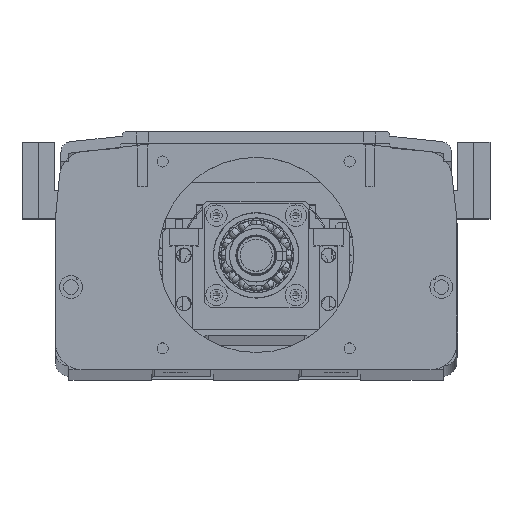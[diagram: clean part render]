
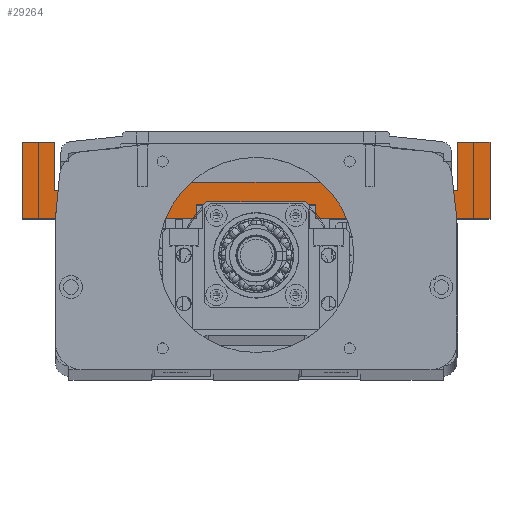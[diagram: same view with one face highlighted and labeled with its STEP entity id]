
A CAD part, top view. The second image highlights one B-rep face of the part: STEP entity #29264.
In plain terms, the highlighted planar face has unit normal (0, 0, 1).
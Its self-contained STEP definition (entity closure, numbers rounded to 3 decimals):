
#624 = LINE ( 'NONE', #68662, #95776 ) ;
#3448 = VERTEX_POINT ( 'NONE', #24370 ) ;
#3449 = DIRECTION ( 'NONE',  ( 0., -1., 0. ) ) ;
#4084 = DIRECTION ( 'NONE',  ( 0., 1., 0. ) ) ;
#4088 = EDGE_CURVE ( 'NONE', #62037, #34630, #30554, .T. ) ;
#4705 = CARTESIAN_POINT ( 'NONE',  ( -45.291, -35.176, 150. ) ) ;
#4823 = CARTESIAN_POINT ( 'NONE',  ( -45.291, -35.176, 150. ) ) ;
#5221 = DIRECTION ( 'NONE',  ( -1., 0., 0. ) ) ;
#6261 = LINE ( 'NONE', #32098, #72040 ) ;
#12693 = CARTESIAN_POINT ( 'NONE',  ( 97.209, -50.176, 150. ) ) ;
#14540 = DIRECTION ( 'NONE',  ( 1., 0., 0. ) ) ;
#14613 = LINE ( 'NONE', #38183, #77540 ) ;
#17357 = ORIENTED_EDGE ( 'NONE', *, *, #49761, .T. ) ;
#17571 = DIRECTION ( 'NONE',  ( 1., 0., 0. ) ) ;
#18950 = VERTEX_POINT ( 'NONE', #87681 ) ;
#19218 = CARTESIAN_POINT ( 'NONE',  ( -36.791, -63.676, 150. ) ) ;
#19576 = ORIENTED_EDGE ( 'NONE', *, *, #72250, .T. ) ;
#20106 = VERTEX_POINT ( 'NONE', #35500 ) ;
#21667 = LINE ( 'NONE', #4705, #113976 ) ;
#23313 = VERTEX_POINT ( 'NONE', #4823 ) ;
#23423 = ORIENTED_EDGE ( 'NONE', *, *, #4088, .T. ) ;
#23505 = CARTESIAN_POINT ( 'NONE',  ( -36.791, -50.176, 150. ) ) ;
#23715 = DIRECTION ( 'NONE',  ( 0., -1., 0. ) ) ;
#24088 = DIRECTION ( 'NONE',  ( -1., 0., 0. ) ) ;
#24370 = CARTESIAN_POINT ( 'NONE',  ( -45.291, -53.176, 150. ) ) ;
#25629 = CARTESIAN_POINT ( 'NONE',  ( 105.709, -35.176, 150. ) ) ;
#26118 = ORIENTED_EDGE ( 'NONE', *, *, #49248, .T. ) ;
#27253 = EDGE_LOOP ( 'NONE', ( #27810, #82427, #29360, #46448, #30732, #90910, #77819, #80205, #70552, #17357, #23423, #75145, #46948, #44586, #19576, #26118 ) ) ;
#27711 = CARTESIAN_POINT ( 'NONE',  ( -36.791, -53.176, 150. ) ) ;
#27810 = ORIENTED_EDGE ( 'NONE', *, *, #76057, .F. ) ;
#28064 = EDGE_CURVE ( 'NONE', #38285, #79737, #72677, .T. ) ;
#29264 = ADVANCED_FACE ( 'NONE', ( #80995 ), #35335, .T. ) ;
#29360 = ORIENTED_EDGE ( 'NONE', *, *, #70010, .F. ) ;
#29604 = DIRECTION ( 'NONE',  ( -1., 0., 0. ) ) ;
#30554 = LINE ( 'NONE', #19218, #99063 ) ;
#30732 = ORIENTED_EDGE ( 'NONE', *, *, #51983, .T. ) ;
#31377 = CARTESIAN_POINT ( 'NONE',  ( -57.291, -63.676, 150. ) ) ;
#31852 = EDGE_CURVE ( 'NONE', #105526, #69912, #624, .T. ) ;
#32098 = CARTESIAN_POINT ( 'NONE',  ( -57.291, -53.176, 150. ) ) ;
#32208 = VECTOR ( 'NONE', #70179, 1000. ) ;
#32704 = CARTESIAN_POINT ( 'NONE',  ( 105.709, -35.176, 150. ) ) ;
#34031 = EDGE_CURVE ( 'NONE', #40925, #38285, #6261, .T. ) ;
#34630 = VERTEX_POINT ( 'NONE', #27711 ) ;
#35335 = PLANE ( 'NONE',  #93973 ) ;
#35500 = CARTESIAN_POINT ( 'NONE',  ( 7.959, -63.676, 150. ) ) ;
#37432 = VECTOR ( 'NONE', #3449, 1000. ) ;
#38183 = CARTESIAN_POINT ( 'NONE',  ( -57.291, -53.176, 150. ) ) ;
#38285 = VERTEX_POINT ( 'NONE', #99453 ) ;
#38729 = VECTOR ( 'NONE', #17571, 1000. ) ;
#40925 = VERTEX_POINT ( 'NONE', #44074 ) ;
#43295 = DIRECTION ( 'NONE',  ( 0., 1., 0. ) ) ;
#44074 = CARTESIAN_POINT ( 'NONE',  ( 105.709, -53.176, 150. ) ) ;
#44310 = DIRECTION ( 'NONE',  ( 1., 0., 0. ) ) ;
#44586 = ORIENTED_EDGE ( 'NONE', *, *, #52165, .T. ) ;
#46002 = EDGE_CURVE ( 'NONE', #76132, #40925, #110290, .T. ) ;
#46448 = ORIENTED_EDGE ( 'NONE', *, *, #115222, .T. ) ;
#46948 = ORIENTED_EDGE ( 'NONE', *, *, #84261, .T. ) ;
#47614 = CARTESIAN_POINT ( 'NONE',  ( 105.709, -35.176, 150. ) ) ;
#49248 = EDGE_CURVE ( 'NONE', #87706, #20106, #62501, .T. ) ;
#49761 = EDGE_CURVE ( 'NONE', #79737, #62037, #66697, .T. ) ;
#51429 = CARTESIAN_POINT ( 'NONE',  ( 117.709, -35.176, 150. ) ) ;
#51983 = EDGE_CURVE ( 'NONE', #18950, #63379, #87804, .T. ) ;
#52165 = EDGE_CURVE ( 'NONE', #23313, #72556, #94751, .T. ) ;
#55126 = DIRECTION ( 'NONE',  ( 0., -1., 0. ) ) ;
#57002 = CARTESIAN_POINT ( 'NONE',  ( 7.959, -58.676, 150. ) ) ;
#61212 = LINE ( 'NONE', #57002, #37432 ) ;
#61764 = CARTESIAN_POINT ( 'NONE',  ( 52.459, -63.676, 150. ) ) ;
#61905 = CARTESIAN_POINT ( 'NONE',  ( -57.291, -63.676, 150. ) ) ;
#62037 = VERTEX_POINT ( 'NONE', #23505 ) ;
#62118 = CARTESIAN_POINT ( 'NONE',  ( -57.291, -63.676, 150. ) ) ;
#62501 = LINE ( 'NONE', #62118, #38729 ) ;
#62724 = VECTOR ( 'NONE', #23715, 1000. ) ;
#63043 = VECTOR ( 'NONE', #14540, 1000. ) ;
#63379 = VERTEX_POINT ( 'NONE', #51429 ) ;
#65618 = VECTOR ( 'NONE', #104032, 1000. ) ;
#65733 = LINE ( 'NONE', #67501, #86696 ) ;
#66697 = LINE ( 'NONE', #74605, #111455 ) ;
#67296 = DIRECTION ( 'NONE',  ( 0., 1., 0. ) ) ;
#67501 = CARTESIAN_POINT ( 'NONE',  ( -57.291, -35.176, 150. ) ) ;
#67809 = CARTESIAN_POINT ( 'NONE',  ( -57.291, -35.176, 150. ) ) ;
#67875 = DIRECTION ( 'NONE',  ( 0., -1., 0. ) ) ;
#67966 = EDGE_CURVE ( 'NONE', #63379, #76132, #103532, .T. ) ;
#68472 = CARTESIAN_POINT ( 'NONE',  ( 52.459, -58.676, 150. ) ) ;
#68662 = CARTESIAN_POINT ( 'NONE',  ( 7.959, -58.676, 150. ) ) ;
#69912 = VERTEX_POINT ( 'NONE', #112265 ) ;
#70010 = EDGE_CURVE ( 'NONE', #92280, #105526, #92183, .T. ) ;
#70179 = DIRECTION ( 'NONE',  ( -1., 0., 0. ) ) ;
#70552 = ORIENTED_EDGE ( 'NONE', *, *, #28064, .T. ) ;
#72040 = VECTOR ( 'NONE', #85655, 1000. ) ;
#72250 = EDGE_CURVE ( 'NONE', #72556, #87706, #65733, .T. ) ;
#72556 = VERTEX_POINT ( 'NONE', #78377 ) ;
#72677 = LINE ( 'NONE', #105858, #93691 ) ;
#74605 = CARTESIAN_POINT ( 'NONE',  ( -45.291, -50.176, 150. ) ) ;
#75145 = ORIENTED_EDGE ( 'NONE', *, *, #108177, .T. ) ;
#76057 = EDGE_CURVE ( 'NONE', #69912, #20106, #61212, .T. ) ;
#76132 = VERTEX_POINT ( 'NONE', #47614 ) ;
#76587 = VECTOR ( 'NONE', #4084, 1000. ) ;
#77540 = VECTOR ( 'NONE', #29604, 1000. ) ;
#77819 = ORIENTED_EDGE ( 'NONE', *, *, #46002, .T. ) ;
#78377 = CARTESIAN_POINT ( 'NONE',  ( -57.291, -35.176, 150. ) ) ;
#79737 = VERTEX_POINT ( 'NONE', #12693 ) ;
#80177 = CARTESIAN_POINT ( 'NONE',  ( -57.291, -63.676, 150. ) ) ;
#80205 = ORIENTED_EDGE ( 'NONE', *, *, #34031, .T. ) ;
#80995 = FACE_OUTER_BOUND ( 'NONE', #27253, .T. ) ;
#82427 = ORIENTED_EDGE ( 'NONE', *, *, #31852, .F. ) ;
#83591 = DIRECTION ( 'NONE',  ( -1., 0., 0. ) ) ;
#84261 = EDGE_CURVE ( 'NONE', #3448, #23313, #21667, .T. ) ;
#85655 = DIRECTION ( 'NONE',  ( -1., 0., 0. ) ) ;
#86696 = VECTOR ( 'NONE', #67875, 1000. ) ;
#87681 = CARTESIAN_POINT ( 'NONE',  ( 117.709, -63.676, 150. ) ) ;
#87706 = VERTEX_POINT ( 'NONE', #80177 ) ;
#87804 = LINE ( 'NONE', #110805, #76587 ) ;
#90910 = ORIENTED_EDGE ( 'NONE', *, *, #67966, .T. ) ;
#92183 = LINE ( 'NONE', #68472, #65618 ) ;
#92280 = VERTEX_POINT ( 'NONE', #61764 ) ;
#93691 = VECTOR ( 'NONE', #43295, 1000. ) ;
#93973 = AXIS2_PLACEMENT_3D ( 'NONE', #61905, #97903, #44310 ) ;
#94751 = LINE ( 'NONE', #67809, #115739 ) ;
#95776 = VECTOR ( 'NONE', #24088, 1000. ) ;
#97903 = DIRECTION ( 'NONE',  ( 0., 0., 1. ) ) ;
#99063 = VECTOR ( 'NONE', #55126, 1000. ) ;
#99453 = CARTESIAN_POINT ( 'NONE',  ( 97.209, -53.176, 150. ) ) ;
#99814 = CARTESIAN_POINT ( 'NONE',  ( 52.459, -58.676, 150. ) ) ;
#103532 = LINE ( 'NONE', #25629, #32208 ) ;
#104032 = DIRECTION ( 'NONE',  ( 0., 1., 0. ) ) ;
#105526 = VERTEX_POINT ( 'NONE', #99814 ) ;
#105858 = CARTESIAN_POINT ( 'NONE',  ( 97.209, -63.676, 150. ) ) ;
#108177 = EDGE_CURVE ( 'NONE', #34630, #3448, #14613, .T. ) ;
#110290 = LINE ( 'NONE', #32704, #62724 ) ;
#110630 = LINE ( 'NONE', #31377, #63043 ) ;
#110805 = CARTESIAN_POINT ( 'NONE',  ( 117.709, -35.176, 150. ) ) ;
#111455 = VECTOR ( 'NONE', #83591, 1000. ) ;
#112265 = CARTESIAN_POINT ( 'NONE',  ( 7.959, -58.676, 150. ) ) ;
#113976 = VECTOR ( 'NONE', #67296, 1000. ) ;
#115222 = EDGE_CURVE ( 'NONE', #92280, #18950, #110630, .T. ) ;
#115739 = VECTOR ( 'NONE', #5221, 1000. ) ;
